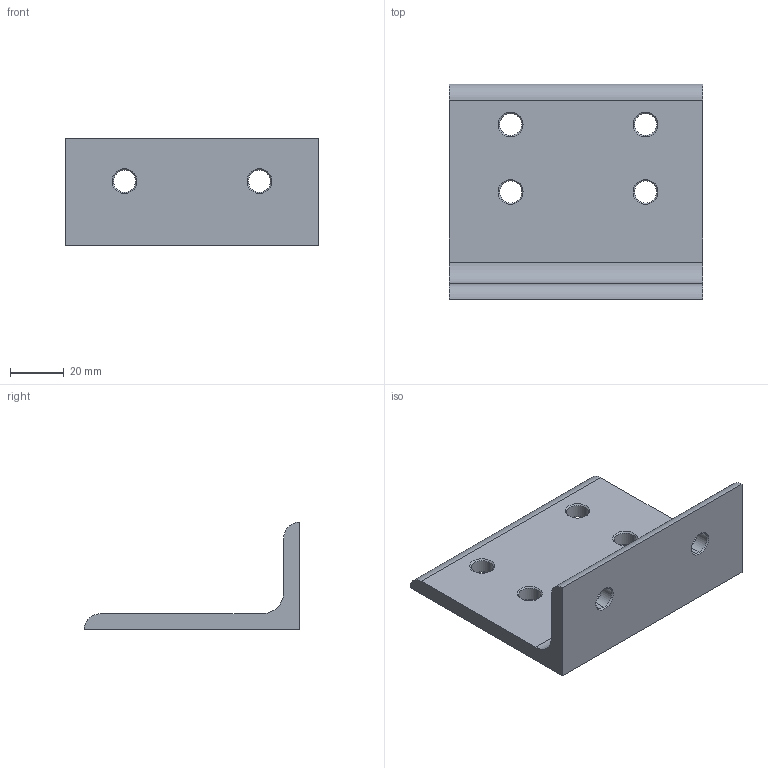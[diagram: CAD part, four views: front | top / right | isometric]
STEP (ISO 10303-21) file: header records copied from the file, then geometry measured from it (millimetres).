
FILE_DESCRIPTION (( 'STEP AP203' ), '1' );
FILE_NAME ('11100100AL.STEP', '2017-04-27T12:14:49', ( '' ), ( '' ), 'SwSTEP 2.0', 'SolidWorks 2014', '' );
FILE_SCHEMA (( 'CONFIG_CONTROL_DESIGN' ));
Length unit declared in the file: millimetre
Products named in the file (1): 11100100AL
Bounding box: 94 x 80 x 40 mm (x, y, z)
Volume: 62193.2 mm3; surface area: 23324.7 mm2
Topology: 1 solids, 1 shells, 45 faces, 105 edges, 62 vertices
Faces by surface type: cone 24, cylinder 15, plane 6
Entity records: 1382 total; most frequent: DIRECTION 251, CARTESIAN_POINT 213, ORIENTED_EDGE 210, EDGE_CURVE 105, AXIS2_PLACEMENT_3D 100, VERTEX_POINT 62, EDGE_LOOP 57, CIRCLE 54
